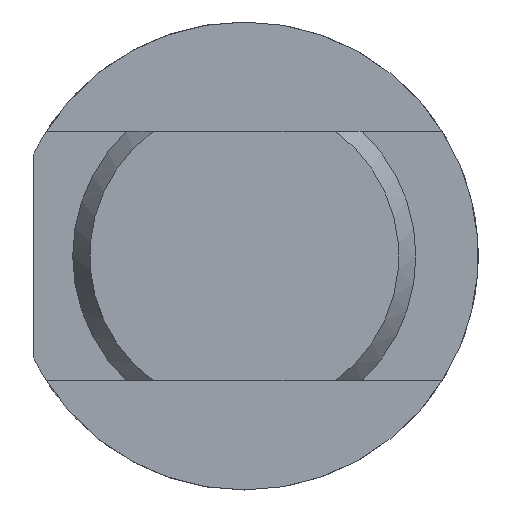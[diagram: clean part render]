
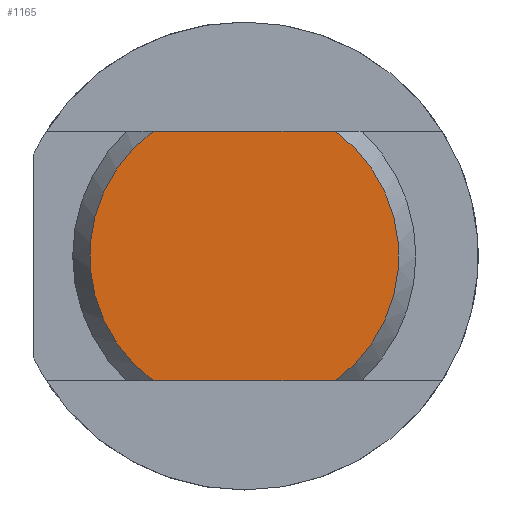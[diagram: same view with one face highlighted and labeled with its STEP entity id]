
A CAD part, left-side view. The second image highlights one B-rep face of the part: STEP entity #1165.
In plain terms, the highlighted planar face has unit normal (-1, 0, 0).
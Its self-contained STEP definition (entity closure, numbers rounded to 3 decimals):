
#236 = ORIENTED_EDGE ( 'NONE', *, *, #347, .F. ) ;
#250 = CARTESIAN_POINT ( 'NONE',  ( -90., 13.5, 8. ) ) ;
#272 = FACE_OUTER_BOUND ( 'NONE', #3145, .T. ) ;
#347 = EDGE_CURVE ( 'NONE', #817, #2773, #2614, .T. ) ;
#365 = CARTESIAN_POINT ( 'NONE',  ( -90., -5.832, 8. ) ) ;
#423 = VECTOR ( 'NONE', #3100, 1000. ) ;
#545 = EDGE_CURVE ( 'NONE', #817, #708, #2090, .T. ) ;
#625 = ORIENTED_EDGE ( 'NONE', *, *, #3161, .T. ) ;
#652 = AXIS2_PLACEMENT_3D ( 'NONE', #2877, #1328, #819 ) ;
#708 = VERTEX_POINT ( 'NONE', #1399 ) ;
#817 = VERTEX_POINT ( 'NONE', #365 ) ;
#819 = DIRECTION ( 'NONE',  ( 0., 0., 1. ) ) ;
#924 = DIRECTION ( 'NONE',  ( 0., 0., -1. ) ) ;
#1035 = DIRECTION ( 'NONE',  ( 0., 1., 0. ) ) ;
#1066 = LINE ( 'NONE', #3327, #423 ) ;
#1149 = VECTOR ( 'NONE', #1035, 1000. ) ;
#1165 = ADVANCED_FACE ( 'NONE', ( #272 ), #2374, .T. ) ;
#1238 = CIRCLE ( 'NONE', #3181, 9.9 ) ;
#1328 = DIRECTION ( 'NONE',  ( -1., 0., 0. ) ) ;
#1399 = CARTESIAN_POINT ( 'NONE',  ( -90., 5.832, 8. ) ) ;
#1443 = DIRECTION ( 'NONE',  ( -1., 0., 0. ) ) ;
#1716 = DIRECTION ( 'NONE',  ( 0., 0., -1. ) ) ;
#1970 = CARTESIAN_POINT ( 'NONE',  ( -90., 0., 0. ) ) ;
#1972 = CARTESIAN_POINT ( 'NONE',  ( -90., 0., 0. ) ) ;
#2090 = LINE ( 'NONE', #250, #1149 ) ;
#2257 = DIRECTION ( 'NONE',  ( 1., 0., 0. ) ) ;
#2276 = VERTEX_POINT ( 'NONE', #2545 ) ;
#2374 = PLANE ( 'NONE',  #652 ) ;
#2545 = CARTESIAN_POINT ( 'NONE',  ( -90., 5.832, -8. ) ) ;
#2598 = ORIENTED_EDGE ( 'NONE', *, *, #545, .T. ) ;
#2614 = CIRCLE ( 'NONE', #2951, 9.9 ) ;
#2671 = CARTESIAN_POINT ( 'NONE',  ( -90., -5.832, -8. ) ) ;
#2773 = VERTEX_POINT ( 'NONE', #2671 ) ;
#2877 = CARTESIAN_POINT ( 'NONE',  ( -90., 0., 0. ) ) ;
#2951 = AXIS2_PLACEMENT_3D ( 'NONE', #1970, #2257, #1716 ) ;
#2985 = EDGE_CURVE ( 'NONE', #708, #2276, #1238, .T. ) ;
#3100 = DIRECTION ( 'NONE',  ( 0., -1., 0. ) ) ;
#3145 = EDGE_LOOP ( 'NONE', ( #2598, #3263, #625, #236 ) ) ;
#3161 = EDGE_CURVE ( 'NONE', #2276, #2773, #1066, .T. ) ;
#3181 = AXIS2_PLACEMENT_3D ( 'NONE', #1972, #1443, #924 ) ;
#3263 = ORIENTED_EDGE ( 'NONE', *, *, #2985, .T. ) ;
#3327 = CARTESIAN_POINT ( 'NONE',  ( -90., 13.5, -8. ) ) ;
